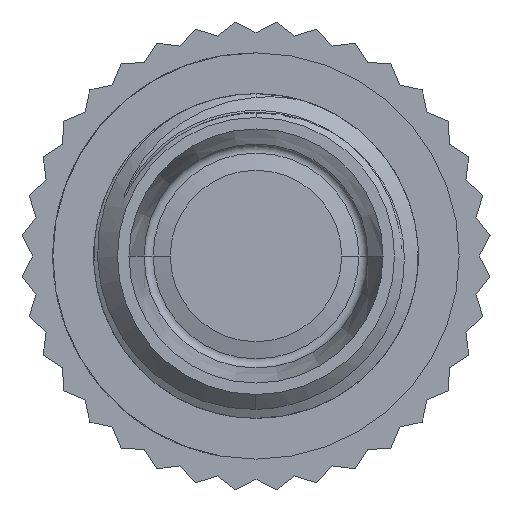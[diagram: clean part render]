
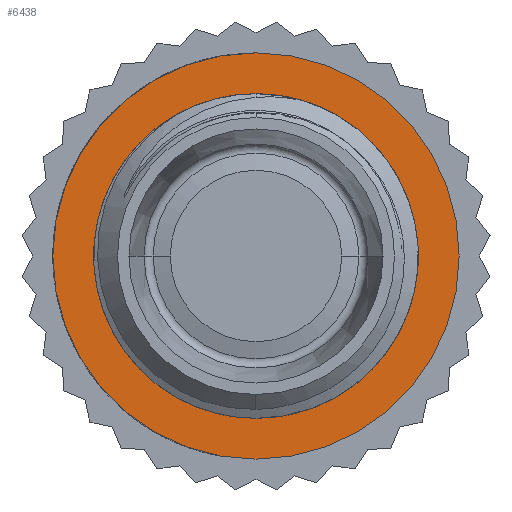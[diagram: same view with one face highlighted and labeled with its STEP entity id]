
A CAD part, left-side view. The second image highlights one B-rep face of the part: STEP entity #6438.
In plain terms, the highlighted planar face has unit normal (-1, 0, 0).
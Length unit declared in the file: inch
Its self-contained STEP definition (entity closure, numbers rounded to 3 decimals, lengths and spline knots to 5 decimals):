
#124 = DIRECTION ( 'NONE',  ( 0., 0., 1. ) ) ;
#1266 = CARTESIAN_POINT ( 'NONE',  ( -1.153, 0., 0. ) ) ;
#3382 = EDGE_CURVE ( 'NONE', #17074, #39450, #12297, .T. ) ;
#3552 = ORIENTED_EDGE ( 'NONE', *, *, #11630, .F. ) ;
#4406 = DIRECTION ( 'NONE',  ( 0., 0., 1. ) ) ;
#4625 = VERTEX_POINT ( 'NONE', #20122 ) ;
#5632 = AXIS2_PLACEMENT_3D ( 'NONE', #1266, #23151, #4406 ) ;
#6438 = ADVANCED_FACE ( 'NONE', ( #23819, #32145 ), #9127, .T. ) ;
#7114 = EDGE_CURVE ( 'NONE', #39450, #17074, #11925, .T. ) ;
#8362 = ORIENTED_EDGE ( 'NONE', *, *, #7114, .T. ) ;
#9127 = PLANE ( 'NONE',  #32490 ) ;
#11017 = CARTESIAN_POINT ( 'NONE',  ( -1.153, 0., -0.352 ) ) ;
#11630 = EDGE_CURVE ( 'NONE', #32496, #4625, #38243, .T. ) ;
#11925 = CIRCLE ( 'NONE', #23850, 0.352 ) ;
#12297 = CIRCLE ( 'NONE', #25578, 0.352 ) ;
#12353 = DIRECTION ( 'NONE',  ( -1., 0., 0. ) ) ;
#16258 = ORIENTED_EDGE ( 'NONE', *, *, #3382, .T. ) ;
#17074 = VERTEX_POINT ( 'NONE', #11017 ) ;
#17865 = CARTESIAN_POINT ( 'NONE',  ( -1.153, 0., 0. ) ) ;
#18417 = AXIS2_PLACEMENT_3D ( 'NONE', #37470, #18627, #40611 ) ;
#18627 = DIRECTION ( 'NONE',  ( -1., 0., 0. ) ) ;
#18828 = DIRECTION ( 'NONE',  ( -1., 0., 0. ) ) ;
#19612 = CIRCLE ( 'NONE', #18417, 0.26325 ) ;
#19686 = CARTESIAN_POINT ( 'NONE',  ( -1.153, 0., 0.352 ) ) ;
#20122 = CARTESIAN_POINT ( 'NONE',  ( -1.153, 0., 0.26325 ) ) ;
#21012 = DIRECTION ( 'NONE',  ( 0., 0., 1. ) ) ;
#23151 = DIRECTION ( 'NONE',  ( -1., 0., 0. ) ) ;
#23819 = FACE_OUTER_BOUND ( 'NONE', #37426, .T. ) ;
#23850 = AXIS2_PLACEMENT_3D ( 'NONE', #17865, #39831, #21012 ) ;
#25578 = AXIS2_PLACEMENT_3D ( 'NONE', #31159, #12353, #34285 ) ;
#26282 = CARTESIAN_POINT ( 'NONE',  ( -1.153, 0., -0.26325 ) ) ;
#29120 = ORIENTED_EDGE ( 'NONE', *, *, #29786, .F. ) ;
#29786 = EDGE_CURVE ( 'NONE', #4625, #32496, #19612, .T. ) ;
#29854 = EDGE_LOOP ( 'NONE', ( #29120, #3552 ) ) ;
#31159 = CARTESIAN_POINT ( 'NONE',  ( -1.153, 0., 0. ) ) ;
#32145 = FACE_BOUND ( 'NONE', #29854, .T. ) ;
#32490 = AXIS2_PLACEMENT_3D ( 'NONE', #37646, #18828, #124 ) ;
#32496 = VERTEX_POINT ( 'NONE', #26282 ) ;
#34285 = DIRECTION ( 'NONE',  ( 0., 0., 1. ) ) ;
#37426 = EDGE_LOOP ( 'NONE', ( #16258, #8362 ) ) ;
#37470 = CARTESIAN_POINT ( 'NONE',  ( -1.153, 0., 0. ) ) ;
#37646 = CARTESIAN_POINT ( 'NONE',  ( -1.153, 0.352, 0. ) ) ;
#38243 = CIRCLE ( 'NONE', #5632, 0.26325 ) ;
#39450 = VERTEX_POINT ( 'NONE', #19686 ) ;
#39831 = DIRECTION ( 'NONE',  ( -1., 0., 0. ) ) ;
#40611 = DIRECTION ( 'NONE',  ( 0., 0., 1. ) ) ;
